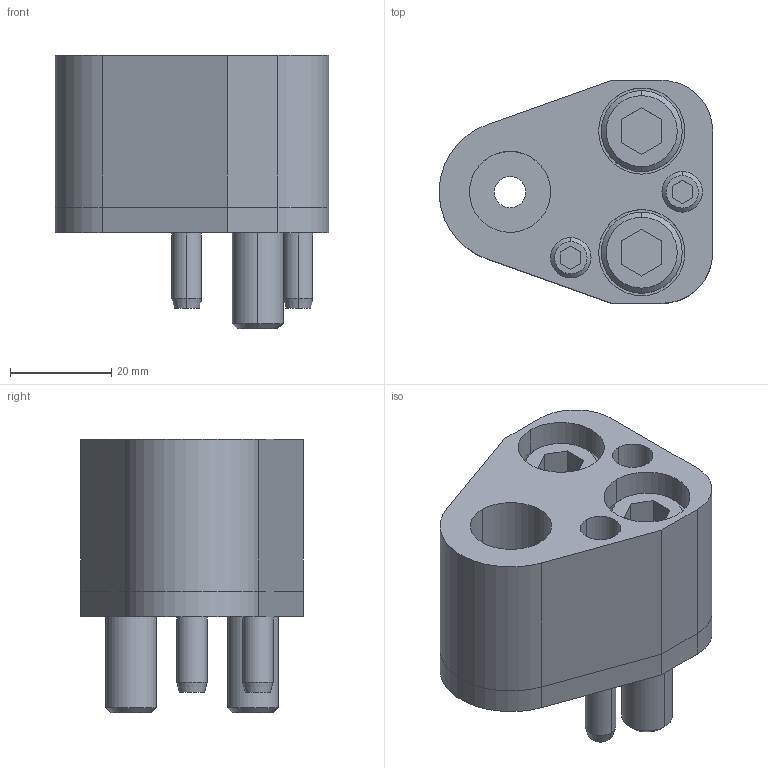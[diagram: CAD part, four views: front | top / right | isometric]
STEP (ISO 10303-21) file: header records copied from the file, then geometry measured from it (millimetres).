
FILE_DESCRIPTION(/* description */ (''),/* implementation_level */ '2;1');
FILE_NAME(/* name */ '3d_ap-ap16_02878_r00.stp',/* time_stamp */ '2011-01-10T14:17:46+09:00',/* author */ ('MISUMI'),/* organization */ (''),/* preprocessor_version */ 'ST-DEVELOPER v11',/* originating_system */ 'UGS - NX 5.0',/* authorisation */ '');
FILE_SCHEMA (('CONFIG_CONTROL_DESIGN'));
Length unit declared in the file: millimetre
Products named in the file (1): 3d_ap-ap16_02878_r00
Bounding box: 53.95 x 44 x 54 mm (x, y, z)
Volume: 56921.9 mm3; surface area: 24510.2 mm2
Topology: 8 solids, 8 shells, 155 faces, 346 edges, 222 vertices
Faces by surface type: plane 67, cylinder 62, cone 26
Entity records: 4474 total; most frequent: DIRECTION 804, CARTESIAN_POINT 772, ORIENTED_EDGE 692, EDGE_CURVE 346, AXIS2_PLACEMENT_3D 306, VERTEX_POINT 222, LINE 192, VECTOR 192
